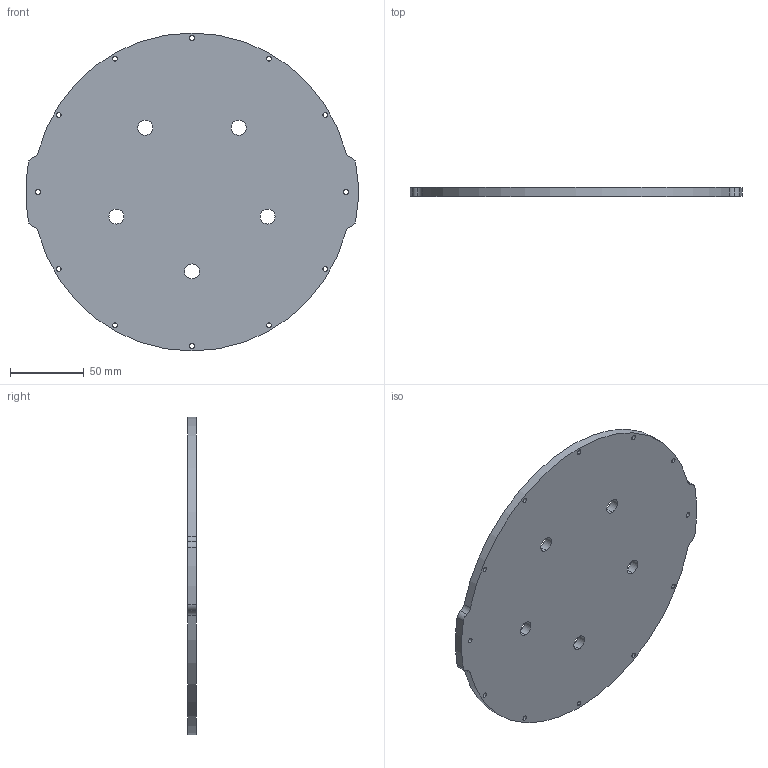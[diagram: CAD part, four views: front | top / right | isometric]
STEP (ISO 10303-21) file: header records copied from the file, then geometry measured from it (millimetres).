
FILE_DESCRIPTION (( 'STEP AP203' ), '1' );
FILE_NAME ('WTE8-M-END-CAP-5-10MM-R1.STEP', '2017-01-12T19:30:46', ( '' ), ( '' ), 'SwSTEP 2.0', 'SolidWorks 2014', '' );
FILE_SCHEMA (( 'CONFIG_CONTROL_DESIGN' ));
Length unit declared in the file: millimetre
Products named in the file (1): WTE8-M-END-CAP-5-10MM-R1
Bounding box: 225.52 x 6 x 215.9 mm (x, y, z)
Volume: 219423.6 mm3; surface area: 78987.7 mm2
Topology: 1 solids, 1 shells, 49 faces, 141 edges, 94 vertices
Faces by surface type: cylinder 47, plane 2
Entity records: 1814 total; most frequent: DIRECTION 335, CARTESIAN_POINT 285, ORIENTED_EDGE 282, AXIS2_PLACEMENT_3D 144, EDGE_CURVE 141, VERTEX_POINT 94, CIRCLE 94, EDGE_LOOP 83
